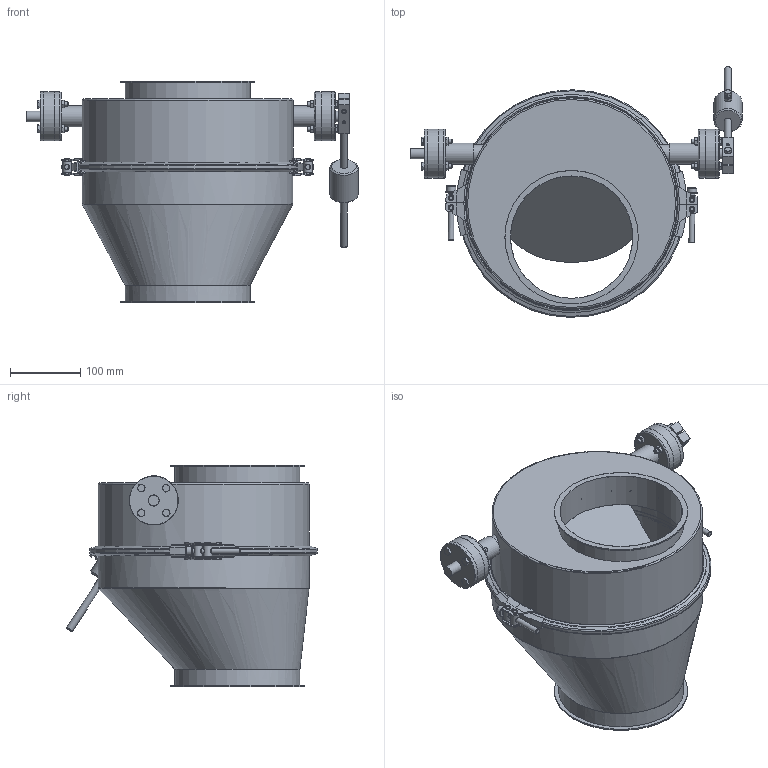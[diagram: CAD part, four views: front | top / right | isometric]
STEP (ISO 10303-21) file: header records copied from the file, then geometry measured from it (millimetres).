
FILE_DESCRIPTION((''),'2;1');
FILE_NAME('U:\Wolfgang\Marcel-3D\fertig\Kapitel 8\1721175.stp','2011-05-03T15:01:35',('TK1'),(''),'Autodesk Inventor 2010','Autodesk Inventor 2010','');
FILE_SCHEMA(('AUTOMOTIVE_DESIGN { 1 0 10303 214 1 1 1 1 }'));
Length unit declared in the file: millimetre
Products named in the file (20): 1721175; Hebel D15; WelleDN170; Wellenende D15; Buchse D15 70-50; lagerdeckel D15; PendelkugellagerD15; DIN EN ISO 4018 M6x40; DIN EN ISO 4018 M6x30; DIN 555 - ersetzt durch DIN EN 24034 M6; DIN 914 M5 x 6; DIN EN ISO 4018 M6x20; 3012056; 3022055-1; Verschluss b=324; Verschlussrolle; VerschlussrolleGewinde; ISO 4762 M8 x 70; ISO 7089 8 - 140 HV; 1711175-1
Assembly tree (44 placements, depth 3):
  1721175
    Hebel D15
    WelleDN170
    Wellenende D15  x2
      Buchse D15 70-50
      lagerdeckel D15
      PendelkugellagerD15
    DIN EN ISO 4018 M6x40  x8
    DIN EN ISO 4018 M6x30
    DIN 555 - ersetzt durch DIN EN 24034 M6  x9
    DIN 914 M5 x 6  x2
    DIN EN ISO 4018 M6x20
    3012056
      3022055-1  x2
      Verschluss b=324  x4
      Verschlussrolle  x2
      VerschlussrolleGewinde  x2
      ISO 4762 M8 x 70  x2
      ISO 7089 8 - 140 HV  x2
    1711175-1
Bounding box: 472.5 x 357.16 x 315 mm (x, y, z)
Volume: 669673.2 mm3; surface area: 1334736.2 mm2
Topology: 44 solids, 44 shells, 897 faces, 2128 edges, 1380 vertices
Faces by surface type: plane 347, cylinder 206, cone 184, bspline 137, torus 23
Full cylindrical faces by diameter (mm): 5 x10, 6 x12, 8 x10, 8.4 x2, 9 x1, 10 x2, 12 x4, 13 x2, 15 x5, 15.2 x4, 15.5 x2, 16 x4, 24 x2, 24.8 x4, 25 x4, 30 x2, 35 x2, 40 x1, 70 x6, 174 x2, 174.2 x1, 177.8 x3, 178 x3, 189.8 x2, 190 x2, 296 x1, 296.2 x1, 299.8 x2, 300 x2, 311.8 x1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
Entity records: 13009 total; most frequent: CARTESIAN_POINT 5150, DIRECTION 1556, ORIENTED_EDGE 1292, AXIS2_PLACEMENT_3D 671, EDGE_CURVE 646, EDGE_LOOP 566, VERTEX_POINT 488, FACE_OUTER_BOUND 355
